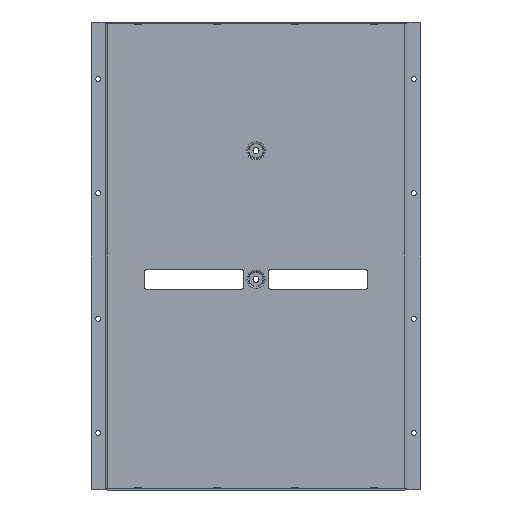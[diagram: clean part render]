
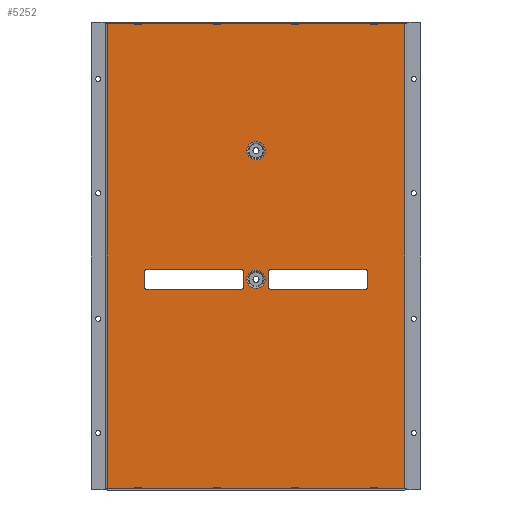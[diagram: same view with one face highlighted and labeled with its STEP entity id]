
A CAD part, front view. The second image highlights one B-rep face of the part: STEP entity #5252.
In plain terms, the highlighted planar face has unit normal (0, -1, 0).
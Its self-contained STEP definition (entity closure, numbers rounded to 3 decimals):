
#1110=DIRECTION('',(-1.,0.,0.));
#1111=VECTOR('',#1110,208.6);
#1112=CARTESIAN_POINT('',(104.3,0.,-1.3));
#1113=LINE('',#1112,#1111);
#1117=CARTESIAN_POINT('',(0.,0.,-90.28));
#1118=DIRECTION('',(0.,-1.,0.));
#1119=DIRECTION('',(1.,0.,0.));
#1120=AXIS2_PLACEMENT_3D('',#1117,#1118,#1119);
#1125=CARTESIAN_POINT('',(0.,0.,-90.28));
#1126=DIRECTION('',(0.,-1.,0.));
#1127=DIRECTION('',(-1.,0.,0.));
#1128=AXIS2_PLACEMENT_3D('',#1125,#1126,#1127);
#1133=CARTESIAN_POINT('',(0.,0.,-180.28));
#1134=DIRECTION('',(0.,-1.,0.));
#1135=DIRECTION('',(1.,0.,0.));
#1136=AXIS2_PLACEMENT_3D('',#1133,#1134,#1135);
#1141=CARTESIAN_POINT('',(0.,0.,-180.28));
#1142=DIRECTION('',(0.,-1.,0.));
#1143=DIRECTION('',(-1.,0.,0.));
#1144=AXIS2_PLACEMENT_3D('',#1141,#1142,#1143);
#1149=DIRECTION('',(1.,0.,0.));
#1150=VECTOR('',#1149,67.2);
#1151=CARTESIAN_POINT('',(-77.12,0.,-173.775));
#1152=LINE('',#1151,#1150);
#1156=DIRECTION('',(0.,0.,1.));
#1157=VECTOR('',#1156,11.36);
#1158=CARTESIAN_POINT('',(-78.12,0.,-186.135));
#1159=LINE('',#1158,#1157);
#1163=DIRECTION('',(-1.,0.,0.));
#1164=VECTOR('',#1163,67.2);
#1165=CARTESIAN_POINT('',(-9.92,0.,-187.135));
#1166=LINE('',#1165,#1164);
#1170=DIRECTION('',(0.,0.,-1.));
#1171=VECTOR('',#1170,11.36);
#1172=CARTESIAN_POINT('',(-8.92,0.,-174.775));
#1173=LINE('',#1172,#1171);
#1177=DIRECTION('',(0.,0.,1.));
#1178=VECTOR('',#1177,11.36);
#1179=CARTESIAN_POINT('',(8.92,0.,-186.135));
#1180=LINE('',#1179,#1178);
#1184=DIRECTION('',(-1.,0.,0.));
#1185=VECTOR('',#1184,67.2);
#1186=CARTESIAN_POINT('',(77.12,0.,-187.135));
#1187=LINE('',#1186,#1185);
#1191=DIRECTION('',(0.,0.,-1.));
#1192=VECTOR('',#1191,11.36);
#1193=CARTESIAN_POINT('',(78.12,0.,-174.775));
#1194=LINE('',#1193,#1192);
#1198=DIRECTION('',(1.,0.,0.));
#1199=VECTOR('',#1198,67.2);
#1200=CARTESIAN_POINT('',(9.92,0.,-173.775));
#1201=LINE('',#1200,#1199);
#1205=DIRECTION('',(0.,0.,1.));
#1206=VECTOR('',#1205,325.4);
#1207=CARTESIAN_POINT('',(104.3,0.,-326.7));
#1208=LINE('',#1207,#1206);
#1677=DIRECTION('',(1.,0.,0.));
#1678=VECTOR('',#1677,208.6);
#1679=CARTESIAN_POINT('',(-104.3,0.,-326.7));
#1680=LINE('',#1679,#1678);
#2487=DIRECTION('',(0.,0.,-1.));
#2488=VECTOR('',#2487,325.4);
#2489=CARTESIAN_POINT('',(-104.3,0.,-1.3));
#2490=LINE('',#2489,#2488);
#3505=CARTESIAN_POINT('',(-77.12,0.,-174.775));
#3506=DIRECTION('',(0.,1.,0.));
#3507=DIRECTION('',(-1.,0.,0.));
#3508=AXIS2_PLACEMENT_3D('',#3505,#3506,#3507);
#3535=CARTESIAN_POINT('',(-9.92,0.,-174.775));
#3536=DIRECTION('',(0.,1.,0.));
#3537=DIRECTION('',(0.,0.,1.));
#3538=AXIS2_PLACEMENT_3D('',#3535,#3536,#3537);
#3565=CARTESIAN_POINT('',(-9.92,0.,-186.135));
#3566=DIRECTION('',(0.,1.,0.));
#3567=DIRECTION('',(1.,0.,0.));
#3568=AXIS2_PLACEMENT_3D('',#3565,#3566,#3567);
#3595=CARTESIAN_POINT('',(-77.12,0.,-186.135));
#3596=DIRECTION('',(0.,1.,0.));
#3597=DIRECTION('',(0.,0.,-1.));
#3598=AXIS2_PLACEMENT_3D('',#3595,#3596,#3597);
#3625=CARTESIAN_POINT('',(77.12,0.,-186.135));
#3626=DIRECTION('',(0.,1.,0.));
#3627=DIRECTION('',(1.,0.,0.));
#3628=AXIS2_PLACEMENT_3D('',#3625,#3626,#3627);
#3655=CARTESIAN_POINT('',(77.12,0.,-174.775));
#3656=DIRECTION('',(0.,1.,0.));
#3657=DIRECTION('',(0.,0.,1.));
#3658=AXIS2_PLACEMENT_3D('',#3655,#3656,#3657);
#3685=CARTESIAN_POINT('',(9.92,0.,-174.775));
#3686=DIRECTION('',(0.,1.,0.));
#3687=DIRECTION('',(-1.,0.,0.));
#3688=AXIS2_PLACEMENT_3D('',#3685,#3686,#3687);
#3715=CARTESIAN_POINT('',(9.92,0.,-186.135));
#3716=DIRECTION('',(0.,1.,0.));
#3717=DIRECTION('',(0.,0.,-1.));
#3718=AXIS2_PLACEMENT_3D('',#3715,#3716,#3717);
#3755=CARTESIAN_POINT('',(-104.3,0.,-326.7));
#3757=VERTEX_POINT('',#3755);
#3759=CARTESIAN_POINT('',(104.3,0.,-326.7));
#3761=VERTEX_POINT('',#3759);
#3805=CARTESIAN_POINT('',(104.3,0.,-1.3));
#3807=VERTEX_POINT('',#3805);
#3811=CARTESIAN_POINT('',(-104.3,0.,-1.3));
#3813=VERTEX_POINT('',#3811);
#4031=CARTESIAN_POINT('',(6.428,0.,-90.28));
#4032=CARTESIAN_POINT('',(-6.428,0.,-90.28));
#4033=VERTEX_POINT('',#4031);
#4034=VERTEX_POINT('',#4032);
#4071=CARTESIAN_POINT('',(6.428,0.,-180.28));
#4072=CARTESIAN_POINT('',(-6.428,0.,-180.28));
#4073=VERTEX_POINT('',#4071);
#4074=VERTEX_POINT('',#4072);
#4095=CARTESIAN_POINT('',(8.92,0.,-174.775));
#4097=VERTEX_POINT('',#4095);
#4099=CARTESIAN_POINT('',(9.92,0.,-173.775));
#4101=VERTEX_POINT('',#4099);
#4103=CARTESIAN_POINT('',(77.12,0.,-173.775));
#4105=VERTEX_POINT('',#4103);
#4107=CARTESIAN_POINT('',(78.12,0.,-174.775));
#4109=VERTEX_POINT('',#4107);
#4111=CARTESIAN_POINT('',(78.12,0.,-186.135));
#4113=VERTEX_POINT('',#4111);
#4115=CARTESIAN_POINT('',(77.12,0.,-187.135));
#4117=VERTEX_POINT('',#4115);
#4119=CARTESIAN_POINT('',(9.92,0.,-187.135));
#4121=VERTEX_POINT('',#4119);
#4123=CARTESIAN_POINT('',(8.92,0.,-186.135));
#4125=VERTEX_POINT('',#4123);
#4271=CARTESIAN_POINT('',(-9.92,0.,-173.775));
#4273=VERTEX_POINT('',#4271);
#4275=CARTESIAN_POINT('',(-8.92,0.,-174.775));
#4277=VERTEX_POINT('',#4275);
#4279=CARTESIAN_POINT('',(-8.92,0.,-186.135));
#4281=VERTEX_POINT('',#4279);
#4283=CARTESIAN_POINT('',(-9.92,0.,-187.135));
#4285=VERTEX_POINT('',#4283);
#4287=CARTESIAN_POINT('',(-78.12,0.,-174.775));
#4289=VERTEX_POINT('',#4287);
#4291=CARTESIAN_POINT('',(-77.12,0.,-173.775));
#4293=VERTEX_POINT('',#4291);
#4295=CARTESIAN_POINT('',(-77.12,0.,-187.135));
#4297=VERTEX_POINT('',#4295);
#4299=CARTESIAN_POINT('',(-78.12,0.,-186.135));
#4301=VERTEX_POINT('',#4299);
#5190=CARTESIAN_POINT('',(0.,0.,0.));
#5191=DIRECTION('',(0.,1.,0.));
#5192=DIRECTION('',(1.,0.,0.));
#5193=AXIS2_PLACEMENT_3D('',#5190,#5191,#5192);
#5194=PLANE('',#5193);
#5196=ORIENTED_EDGE('',*,*,#5195,.F.);
#5198=ORIENTED_EDGE('',*,*,#5197,.F.);
#5200=ORIENTED_EDGE('',*,*,#5199,.F.);
#5201=ORIENTED_EDGE('',*,*,#5183,.F.);
#5202=EDGE_LOOP('',(#5196,#5198,#5200,#5201));
#5203=FACE_OUTER_BOUND('',#5202,.F.);
#5205=ORIENTED_EDGE('',*,*,#5204,.T.);
#5207=ORIENTED_EDGE('',*,*,#5206,.T.);
#5208=EDGE_LOOP('',(#5205,#5207));
#5209=FACE_BOUND('',#5208,.F.);
#5211=ORIENTED_EDGE('',*,*,#5210,.T.);
#5213=ORIENTED_EDGE('',*,*,#5212,.T.);
#5214=EDGE_LOOP('',(#5211,#5213));
#5215=FACE_BOUND('',#5214,.F.);
#5217=ORIENTED_EDGE('',*,*,#5216,.F.);
#5219=ORIENTED_EDGE('',*,*,#5218,.F.);
#5221=ORIENTED_EDGE('',*,*,#5220,.F.);
#5223=ORIENTED_EDGE('',*,*,#5222,.F.);
#5225=ORIENTED_EDGE('',*,*,#5224,.F.);
#5227=ORIENTED_EDGE('',*,*,#5226,.F.);
#5229=ORIENTED_EDGE('',*,*,#5228,.F.);
#5231=ORIENTED_EDGE('',*,*,#5230,.F.);
#5232=EDGE_LOOP('',(#5217,#5219,#5221,#5223,#5225,#5227,#5229,#5231));
#5233=FACE_BOUND('',#5232,.F.);
#5235=ORIENTED_EDGE('',*,*,#5234,.F.);
#5237=ORIENTED_EDGE('',*,*,#5236,.F.);
#5239=ORIENTED_EDGE('',*,*,#5238,.F.);
#5241=ORIENTED_EDGE('',*,*,#5240,.F.);
#5243=ORIENTED_EDGE('',*,*,#5242,.F.);
#5245=ORIENTED_EDGE('',*,*,#5244,.F.);
#5247=ORIENTED_EDGE('',*,*,#5246,.F.);
#5249=ORIENTED_EDGE('',*,*,#5248,.F.);
#5250=EDGE_LOOP('',(#5235,#5237,#5239,#5241,#5243,#5245,#5247,#5249));
#5251=FACE_BOUND('',#5250,.F.);
#1121=CIRCLE('',#1120,6.428);
#1129=CIRCLE('',#1128,6.428);
#1137=CIRCLE('',#1136,6.428);
#1145=CIRCLE('',#1144,6.428);
#3509=CIRCLE('',#3508,1.);
#3539=CIRCLE('',#3538,1.);
#3569=CIRCLE('',#3568,1.);
#3599=CIRCLE('',#3598,1.);
#3629=CIRCLE('',#3628,1.);
#3659=CIRCLE('',#3658,1.);
#3689=CIRCLE('',#3688,1.);
#3719=CIRCLE('',#3718,1.);
#5183=EDGE_CURVE('',#3807,#3813,#1113,.T.);
#5195=EDGE_CURVE('',#3761,#3807,#1208,.T.);
#5197=EDGE_CURVE('',#3757,#3761,#1680,.T.);
#5199=EDGE_CURVE('',#3813,#3757,#2490,.T.);
#5204=EDGE_CURVE('',#4033,#4034,#1121,.T.);
#5206=EDGE_CURVE('',#4034,#4033,#1129,.T.);
#5210=EDGE_CURVE('',#4073,#4074,#1137,.T.);
#5212=EDGE_CURVE('',#4074,#4073,#1145,.T.);
#5216=EDGE_CURVE('',#4293,#4273,#1152,.T.);
#5218=EDGE_CURVE('',#4289,#4293,#3509,.T.);
#5220=EDGE_CURVE('',#4301,#4289,#1159,.T.);
#5222=EDGE_CURVE('',#4297,#4301,#3599,.T.);
#5224=EDGE_CURVE('',#4285,#4297,#1166,.T.);
#5226=EDGE_CURVE('',#4281,#4285,#3569,.T.);
#5228=EDGE_CURVE('',#4277,#4281,#1173,.T.);
#5230=EDGE_CURVE('',#4273,#4277,#3539,.T.);
#5234=EDGE_CURVE('',#4125,#4097,#1180,.T.);
#5236=EDGE_CURVE('',#4121,#4125,#3719,.T.);
#5238=EDGE_CURVE('',#4117,#4121,#1187,.T.);
#5240=EDGE_CURVE('',#4113,#4117,#3629,.T.);
#5242=EDGE_CURVE('',#4109,#4113,#1194,.T.);
#5244=EDGE_CURVE('',#4105,#4109,#3659,.T.);
#5246=EDGE_CURVE('',#4101,#4105,#1201,.T.);
#5248=EDGE_CURVE('',#4097,#4101,#3689,.T.);
#5252=ADVANCED_FACE('',(#5203,#5209,#5215,#5233,#5251),#5194,.F.);
